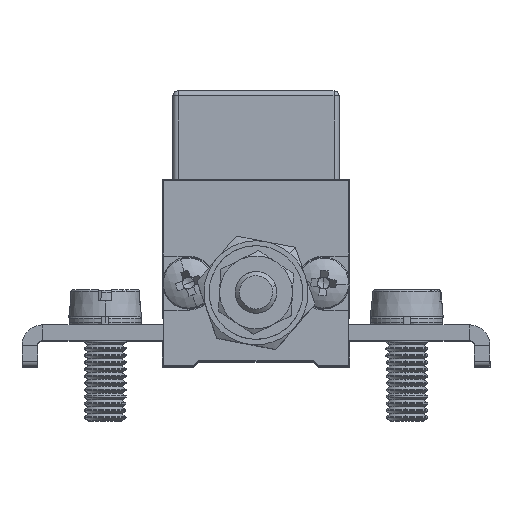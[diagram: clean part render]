
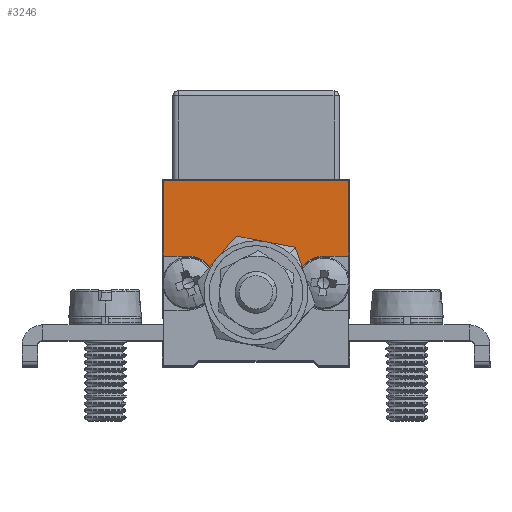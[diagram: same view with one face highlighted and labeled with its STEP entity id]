
A CAD part, top view. The second image highlights one B-rep face of the part: STEP entity #3246.
In plain terms, the highlighted planar face has unit normal (0, 0, 1) as drawn and (0, 0, -1) by its records, which use the part's own axes.
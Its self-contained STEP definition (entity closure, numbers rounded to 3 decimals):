
#560 = ORIENTED_EDGE ( 'NONE', *, *, #13076, .F. ) ;
#975 = CARTESIAN_POINT ( 'NONE',  ( 17.8, 10.5, -4. ) ) ;
#1052 = VECTOR ( 'NONE', #24373, 1000. ) ;
#1135 = DIRECTION ( 'NONE',  ( 0., 1., 0. ) ) ;
#1492 = VERTEX_POINT ( 'NONE', #22935 ) ;
#2128 = VECTOR ( 'NONE', #25392, 1000. ) ;
#3051 = CARTESIAN_POINT ( 'NONE',  ( 15.4, 7.9, -4. ) ) ;
#3139 = CARTESIAN_POINT ( 'NONE',  ( 17.8, 17.8, -4. ) ) ;
#3241 = CIRCLE ( 'NONE', #10094, 2.6 ) ;
#3244 = CIRCLE ( 'NONE', #11291, 2.6 ) ;
#3246 = ADVANCED_FACE ( 'NONE', ( #8896 ), #7491, .F. ) ;
#3649 = CARTESIAN_POINT ( 'NONE',  ( 15.4, 10.5, -4. ) ) ;
#3688 = DIRECTION ( 'NONE',  ( 1., 0., 0. ) ) ;
#3774 = VERTEX_POINT ( 'NONE', #9665 ) ;
#4095 = EDGE_CURVE ( 'NONE', #28247, #1492, #3244, .T. ) ;
#4534 = VERTEX_POINT ( 'NONE', #13437 ) ;
#4770 = CARTESIAN_POINT ( 'NONE',  ( 17.8, 0., -4. ) ) ;
#4992 = ORIENTED_EDGE ( 'NONE', *, *, #13453, .F. ) ;
#5467 = DIRECTION ( 'NONE',  ( 1., 0., 0. ) ) ;
#5960 = CARTESIAN_POINT ( 'NONE',  ( 0., 2.5, -4. ) ) ;
#6140 = DIRECTION ( 'NONE',  ( 0., 0., -1. ) ) ;
#6225 = VERTEX_POINT ( 'NONE', #27620 ) ;
#6243 = LINE ( 'NONE', #7373, #24766 ) ;
#6680 = EDGE_CURVE ( 'NONE', #1492, #6225, #18213, .T. ) ;
#7373 = CARTESIAN_POINT ( 'NONE',  ( 17.8, 17.8, -4. ) ) ;
#7491 = PLANE ( 'NONE',  #22759 ) ;
#7869 = CARTESIAN_POINT ( 'NONE',  ( 2.4, 7.9, -4. ) ) ;
#8896 = FACE_OUTER_BOUND ( 'NONE', #10716, .T. ) ;
#9250 = CARTESIAN_POINT ( 'NONE',  ( 2.4, 10.5, -4. ) ) ;
#9665 = CARTESIAN_POINT ( 'NONE',  ( 17.8, 10.5, -4. ) ) ;
#9835 = DIRECTION ( 'NONE',  ( -1., 0., 0. ) ) ;
#10064 = ORIENTED_EDGE ( 'NONE', *, *, #10694, .F. ) ;
#10094 = AXIS2_PLACEMENT_3D ( 'NONE', #3051, #19926, #5467 ) ;
#10694 = EDGE_CURVE ( 'NONE', #26318, #3774, #27544, .T. ) ;
#10716 = EDGE_LOOP ( 'NONE', ( #18200, #30387, #20092, #4992, #560, #10064, #21365, #25711 ) ) ;
#11291 = AXIS2_PLACEMENT_3D ( 'NONE', #7869, #28725, #30277 ) ;
#13076 = EDGE_CURVE ( 'NONE', #3774, #27942, #22542, .T. ) ;
#13437 = CARTESIAN_POINT ( 'NONE',  ( 0., 17.8, -4. ) ) ;
#13453 = EDGE_CURVE ( 'NONE', #27942, #4534, #6243, .T. ) ;
#13594 = EDGE_CURVE ( 'NONE', #6225, #26318, #3241, .T. ) ;
#15794 = EDGE_CURVE ( 'NONE', #23517, #28247, #23312, .T. ) ;
#16802 = DIRECTION ( 'NONE',  ( 0., 0., 1. ) ) ;
#16936 = VECTOR ( 'NONE', #27627, 1000. ) ;
#17048 = EDGE_CURVE ( 'NONE', #4534, #23517, #27866, .T. ) ;
#18066 = CARTESIAN_POINT ( 'NONE',  ( 17.8, 0., -4. ) ) ;
#18200 = ORIENTED_EDGE ( 'NONE', *, *, #4095, .F. ) ;
#18213 = CIRCLE ( 'NONE', #20143, 4.5 ) ;
#19926 = DIRECTION ( 'NONE',  ( 0., 0., -1. ) ) ;
#20092 = ORIENTED_EDGE ( 'NONE', *, *, #17048, .F. ) ;
#20143 = AXIS2_PLACEMENT_3D ( 'NONE', #20613, #6140, #23044 ) ;
#20613 = CARTESIAN_POINT ( 'NONE',  ( 8.9, 6.9, -4. ) ) ;
#21365 = ORIENTED_EDGE ( 'NONE', *, *, #13594, .F. ) ;
#21428 = CARTESIAN_POINT ( 'NONE',  ( 0., 10.5, -4. ) ) ;
#21785 = VECTOR ( 'NONE', #1135, 1000. ) ;
#22542 = LINE ( 'NONE', #18066, #21785 ) ;
#22759 = AXIS2_PLACEMENT_3D ( 'NONE', #4770, #16802, #3688 ) ;
#22935 = CARTESIAN_POINT ( 'NONE',  ( 4.831, 8.822, -4. ) ) ;
#23044 = DIRECTION ( 'NONE',  ( 1., 0., 0. ) ) ;
#23312 = LINE ( 'NONE', #975, #16936 ) ;
#23517 = VERTEX_POINT ( 'NONE', #21428 ) ;
#24373 = DIRECTION ( 'NONE',  ( 1., 0., 0. ) ) ;
#24766 = VECTOR ( 'NONE', #9835, 1000. ) ;
#25392 = DIRECTION ( 'NONE',  ( 0., -1., 0. ) ) ;
#25711 = ORIENTED_EDGE ( 'NONE', *, *, #6680, .F. ) ;
#26318 = VERTEX_POINT ( 'NONE', #3649 ) ;
#27544 = LINE ( 'NONE', #29180, #1052 ) ;
#27620 = CARTESIAN_POINT ( 'NONE',  ( 12.969, 8.822, -4. ) ) ;
#27627 = DIRECTION ( 'NONE',  ( 1., 0., 0. ) ) ;
#27866 = LINE ( 'NONE', #5960, #2128 ) ;
#27942 = VERTEX_POINT ( 'NONE', #3139 ) ;
#28247 = VERTEX_POINT ( 'NONE', #9250 ) ;
#28725 = DIRECTION ( 'NONE',  ( 0., 0., -1. ) ) ;
#29180 = CARTESIAN_POINT ( 'NONE',  ( 17.8, 10.5, -4. ) ) ;
#30277 = DIRECTION ( 'NONE',  ( 1., 0., 0. ) ) ;
#30387 = ORIENTED_EDGE ( 'NONE', *, *, #15794, .F. ) ;
